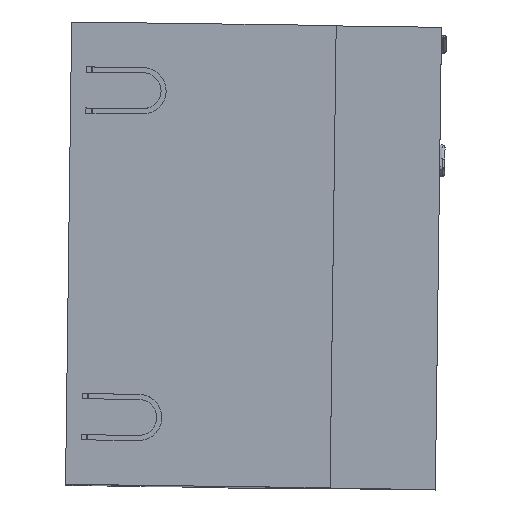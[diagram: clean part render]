
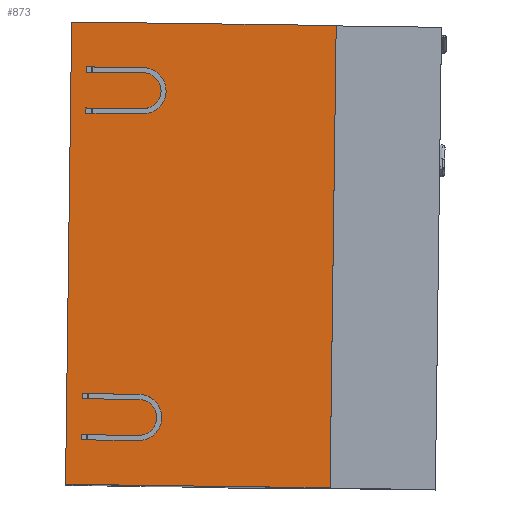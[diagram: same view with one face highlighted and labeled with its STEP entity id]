
A CAD part, top view. The second image highlights one B-rep face of the part: STEP entity #873.
In plain terms, the highlighted planar face has unit normal (0, 0, 1).
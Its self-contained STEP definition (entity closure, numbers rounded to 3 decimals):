
#873=ADVANCED_FACE('',(#9762,#9764,#9766),#9768,.F.);
#9762=FACE_BOUND('',#9763,.T.);
#9763=EDGE_LOOP('',(#20075,#20076,#20077,#20078));
#9764=FACE_BOUND('',#9765,.T.);
#9765=EDGE_LOOP('',(#20079,#20080,#20081,#20082,#20083,#20084,#20085,#20086));
#9766=FACE_BOUND('',#9767,.T.);
#9767=EDGE_LOOP('',(#20087,#20088,#20089,#20090,#20091,#20092,#20093,#20094));
#9768=PLANE('',#9769);
#9769=AXIS2_PLACEMENT_3D('',#9770,#9771,#9772);
#9770=CARTESIAN_POINT('',(7.85,-11.355,65.));
#9771=DIRECTION('',(0.,0.,-1.));
#9772=DIRECTION('',(0.013,1.,0.));
#20075=ORIENTED_EDGE('',*,*,#25635,.T.);
#20076=ORIENTED_EDGE('',*,*,#25357,.F.);
#20077=ORIENTED_EDGE('',*,*,#25647,.F.);
#20078=ORIENTED_EDGE('',*,*,#25273,.T.);
#20079=ORIENTED_EDGE('',*,*,#25648,.F.);
#20080=ORIENTED_EDGE('',*,*,#25649,.T.);
#20081=ORIENTED_EDGE('',*,*,#25650,.T.);
#20082=ORIENTED_EDGE('',*,*,#25651,.T.);
#20083=ORIENTED_EDGE('',*,*,#25652,.F.);
#20084=ORIENTED_EDGE('',*,*,#25653,.F.);
#20085=ORIENTED_EDGE('',*,*,#25654,.F.);
#20086=ORIENTED_EDGE('',*,*,#25655,.F.);
#20087=ORIENTED_EDGE('',*,*,#25656,.F.);
#20088=ORIENTED_EDGE('',*,*,#25657,.F.);
#20089=ORIENTED_EDGE('',*,*,#25658,.F.);
#20090=ORIENTED_EDGE('',*,*,#25659,.F.);
#20091=ORIENTED_EDGE('',*,*,#25660,.F.);
#20092=ORIENTED_EDGE('',*,*,#25661,.F.);
#20093=ORIENTED_EDGE('',*,*,#25662,.F.);
#20094=ORIENTED_EDGE('',*,*,#25663,.F.);
#25273=EDGE_CURVE('',#28194,#28192,#28195,.T.);
#25357=EDGE_CURVE('',#28347,#28349,#28350,.T.);
#25635=EDGE_CURVE('',#28192,#28349,#28841,.T.);
#25647=EDGE_CURVE('',#28194,#28347,#28864,.T.);
#25648=EDGE_CURVE('',#28865,#28866,#28867,.T.);
#25649=EDGE_CURVE('',#28865,#28868,#28869,.T.);
#25650=EDGE_CURVE('',#28868,#28870,#28871,.T.);
#25651=EDGE_CURVE('',#28870,#28872,#28873,.T.);
#25652=EDGE_CURVE('',#28874,#28872,#28875,.T.);
#25653=EDGE_CURVE('',#28876,#28874,#28877,.T.);
#25654=EDGE_CURVE('',#28878,#28876,#28879,.T.);
#25655=EDGE_CURVE('',#28866,#28878,#28880,.T.);
#25656=EDGE_CURVE('',#28881,#28882,#28883,.T.);
#25657=EDGE_CURVE('',#28884,#28881,#28885,.T.);
#25658=EDGE_CURVE('',#28886,#28884,#28887,.T.);
#25659=EDGE_CURVE('',#28888,#28886,#28889,.T.);
#25660=EDGE_CURVE('',#28890,#28888,#28891,.T.);
#25661=EDGE_CURVE('',#28892,#28890,#28893,.T.);
#25662=EDGE_CURVE('',#28894,#28892,#28895,.T.);
#25663=EDGE_CURVE('',#28882,#28894,#28896,.T.);
#28192=VERTEX_POINT('',#33131);
#28194=VERTEX_POINT('',#33135);
#28195=LINE('',#33136,#33137);
#28347=VERTEX_POINT('',#33473);
#28349=VERTEX_POINT('',#33477);
#28350=LINE('',#33478,#33479);
#28841=LINE('',#35451,#35452);
#28864=LINE('',#35501,#35502);
#28865=VERTEX_POINT('',#35504);
#28866=VERTEX_POINT('',#35505);
#28867=LINE('',#35506,#35507);
#28868=VERTEX_POINT('',#35509);
#28869=LINE('',#35510,#35511);
#28870=VERTEX_POINT('',#35513);
#28871=CIRCLE('',#35514,3.5);
#28872=VERTEX_POINT('',#35518);
#28873=LINE('',#35519,#35520);
#28874=VERTEX_POINT('',#35522);
#28875=LINE('',#35523,#35524);
#28876=VERTEX_POINT('',#35526);
#28877=LINE('',#35527,#35528);
#28878=VERTEX_POINT('',#35530);
#28879=CIRCLE('',#35531,4.5);
#28880=LINE('',#35535,#35536);
#28881=VERTEX_POINT('',#35538);
#28882=VERTEX_POINT('',#35539);
#28883=LINE('',#35540,#35541);
#28884=VERTEX_POINT('',#35543);
#28885=LINE('',#35544,#35545);
#28886=VERTEX_POINT('',#35547);
#28887=CIRCLE('',#35548,3.5);
#28888=VERTEX_POINT('',#35552);
#28889=LINE('',#35553,#35554);
#28890=VERTEX_POINT('',#35556);
#28891=LINE('',#35557,#35558);
#28892=VERTEX_POINT('',#35560);
#28893=LINE('',#35561,#35562);
#28894=VERTEX_POINT('',#35564);
#28895=CIRCLE('',#35565,4.5);
#28896=LINE('',#35569,#35570);
#33131=CARTESIAN_POINT('',(8.596,44.89,65.));
#33135=CARTESIAN_POINT('',(60.092,44.207,65.));
#33136=CARTESIAN_POINT('',(60.092,44.207,65.));
#33137=VECTOR('',#33138,1.);
#33138=DIRECTION('',(-1.,0.013,0.));
#33473=CARTESIAN_POINT('',(58.898,-45.785,65.));
#33477=CARTESIAN_POINT('',(7.402,-45.102,65.));
#33478=CARTESIAN_POINT('',(58.898,-45.785,65.));
#33479=VECTOR('',#33480,1.);
#33480=DIRECTION('',(-1.,0.013,0.));
#35451=CARTESIAN_POINT('',(8.596,44.89,65.));
#35452=VECTOR('',#35453,1.);
#35453=DIRECTION('',(-0.013,-1.,0.));
#35501=CARTESIAN_POINT('',(60.092,44.207,65.));
#35502=VECTOR('',#35503,1.);
#35503=DIRECTION('',(-0.013,-1.,0.));
#35504=CARTESIAN_POINT('',(10.531,-35.443,65.));
#35505=CARTESIAN_POINT('',(10.517,-36.443,65.));
#35506=CARTESIAN_POINT('',(10.531,-35.443,65.));
#35507=VECTOR('',#35508,1.);
#35508=DIRECTION('',(-0.013,-1.,0.));
#35509=CARTESIAN_POINT('',(21.6,-35.59,65.));
#35510=CARTESIAN_POINT('',(10.531,-35.443,65.));
#35511=VECTOR('',#35512,1.);
#35512=DIRECTION('',(1.,-0.013,0.));
#35513=CARTESIAN_POINT('',(21.693,-28.59,65.));
#35514=AXIS2_PLACEMENT_3D('',#35515,#35516,#35517);
#35515=CARTESIAN_POINT('',(21.646,-32.09,65.));
#35516=DIRECTION('',(0.,0.,1.));
#35517=DIRECTION('',(-0.013,-1.,0.));
#35518=CARTESIAN_POINT('',(10.624,-28.443,65.));
#35519=CARTESIAN_POINT('',(21.693,-28.59,65.));
#35520=VECTOR('',#35521,1.);
#35521=DIRECTION('',(-1.,0.013,0.));
#35522=CARTESIAN_POINT('',(10.637,-27.444,65.));
#35523=CARTESIAN_POINT('',(10.637,-27.444,65.));
#35524=VECTOR('',#35525,1.);
#35525=DIRECTION('',(-0.013,-1.,0.));
#35526=CARTESIAN_POINT('',(21.706,-27.59,65.));
#35527=CARTESIAN_POINT('',(21.706,-27.59,65.));
#35528=VECTOR('',#35529,1.);
#35529=DIRECTION('',(-1.,0.013,0.));
#35530=CARTESIAN_POINT('',(21.586,-36.59,65.));
#35531=AXIS2_PLACEMENT_3D('',#35532,#35533,#35534);
#35532=CARTESIAN_POINT('',(21.646,-32.09,65.));
#35533=DIRECTION('',(-0.,0.,1.));
#35534=DIRECTION('',(-0.013,-1.,0.));
#35535=CARTESIAN_POINT('',(10.517,-36.443,65.));
#35536=VECTOR('',#35537,1.);
#35537=DIRECTION('',(1.,-0.013,0.));
#35538=CARTESIAN_POINT('',(11.374,28.152,65.));
#35539=CARTESIAN_POINT('',(11.361,27.152,65.));
#35540=CARTESIAN_POINT('',(11.374,28.152,65.));
#35541=VECTOR('',#35542,1.);
#35542=DIRECTION('',(-0.013,-1.,0.));
#35543=CARTESIAN_POINT('',(22.444,28.005,65.));
#35544=CARTESIAN_POINT('',(22.444,28.005,65.));
#35545=VECTOR('',#35546,1.);
#35546=DIRECTION('',(-1.,0.013,0.));
#35547=CARTESIAN_POINT('',(22.536,35.004,65.));
#35548=AXIS2_PLACEMENT_3D('',#35549,#35550,#35551);
#35549=CARTESIAN_POINT('',(22.49,31.504,65.));
#35550=DIRECTION('',(0.,0.,-1.));
#35551=DIRECTION('',(0.013,1.,0.));
#35552=CARTESIAN_POINT('',(11.467,35.151,65.));
#35553=CARTESIAN_POINT('',(11.467,35.151,65.));
#35554=VECTOR('',#35555,1.);
#35555=DIRECTION('',(1.,-0.013,0.));
#35556=CARTESIAN_POINT('',(11.481,36.151,65.));
#35557=CARTESIAN_POINT('',(11.481,36.151,65.));
#35558=VECTOR('',#35559,1.);
#35559=DIRECTION('',(-0.013,-1.,0.));
#35560=CARTESIAN_POINT('',(22.55,36.004,65.));
#35561=CARTESIAN_POINT('',(22.55,36.004,65.));
#35562=VECTOR('',#35563,1.);
#35563=DIRECTION('',(-1.,0.013,0.));
#35564=CARTESIAN_POINT('',(22.43,27.005,65.));
#35565=AXIS2_PLACEMENT_3D('',#35566,#35567,#35568);
#35566=CARTESIAN_POINT('',(22.49,31.504,65.));
#35567=DIRECTION('',(-0.,0.,1.));
#35568=DIRECTION('',(-0.013,-1.,0.));
#35569=CARTESIAN_POINT('',(11.361,27.152,65.));
#35570=VECTOR('',#35571,1.);
#35571=DIRECTION('',(1.,-0.013,0.));
